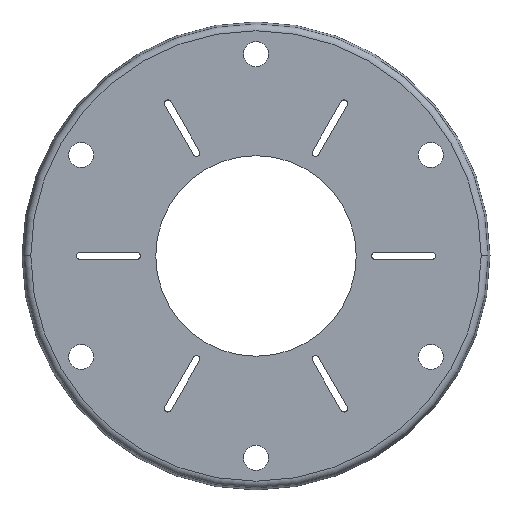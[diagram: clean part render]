
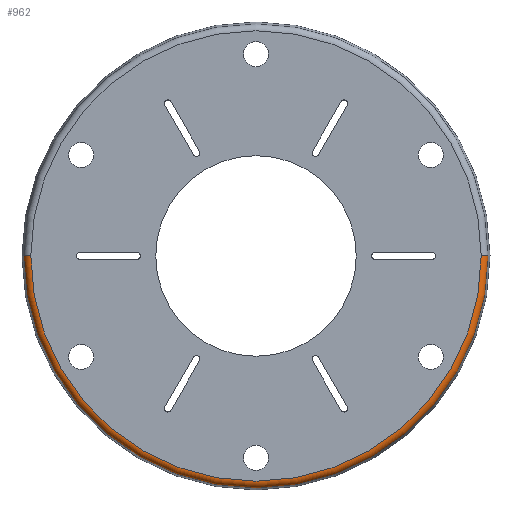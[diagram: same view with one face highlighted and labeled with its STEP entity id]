
A CAD part, top view. The second image highlights one B-rep face of the part: STEP entity #962.
In plain terms, the highlighted toroidal (fillet/blend) face has major radius 80.866 mm and minor radius 2.5 mm.
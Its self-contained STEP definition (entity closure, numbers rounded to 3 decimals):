
#38 = VERTEX_POINT ( 'NONE', #155 ) ;
#114 = CARTESIAN_POINT ( 'NONE',  ( -80.866, 0., -2.5 ) ) ;
#155 = CARTESIAN_POINT ( 'NONE',  ( -80.866, 0., 0. ) ) ;
#190 = DIRECTION ( 'NONE',  ( 1., 0., 0. ) ) ;
#332 = EDGE_CURVE ( 'NONE', #894, #38, #1348, .T. ) ;
#388 = DIRECTION ( 'NONE',  ( 0., 1., 0. ) ) ;
#394 = ORIENTED_EDGE ( 'NONE', *, *, #1041, .F. ) ;
#406 = AXIS2_PLACEMENT_3D ( 'NONE', #114, #388, #1147 ) ;
#425 = EDGE_CURVE ( 'NONE', #713, #486, #1090, .T. ) ;
#486 = VERTEX_POINT ( 'NONE', #1904 ) ;
#690 = CARTESIAN_POINT ( 'NONE',  ( 0., 0., -1.853 ) ) ;
#713 = VERTEX_POINT ( 'NONE', #1305 ) ;
#730 = CARTESIAN_POINT ( 'NONE',  ( -83.281, 0., -1.853 ) ) ;
#824 = AXIS2_PLACEMENT_3D ( 'NONE', #1066, #1214, #1682 ) ;
#877 = CIRCLE ( 'NONE', #1437, 83.281 ) ;
#894 = VERTEX_POINT ( 'NONE', #730 ) ;
#905 = EDGE_LOOP ( 'NONE', ( #1583, #1243, #1444, #394 ) ) ;
#962 = ADVANCED_FACE ( 'NONE', ( #1165 ), #1651, .T. ) ;
#1041 = EDGE_CURVE ( 'NONE', #38, #486, #1473, .T. ) ;
#1066 = CARTESIAN_POINT ( 'NONE',  ( 0., 0., -2.5 ) ) ;
#1090 = CIRCLE ( 'NONE', #1582, 2.5 ) ;
#1147 = DIRECTION ( 'NONE',  ( -1., 0., 0. ) ) ;
#1165 = FACE_OUTER_BOUND ( 'NONE', #905, .T. ) ;
#1208 = EDGE_CURVE ( 'NONE', #894, #713, #877, .T. ) ;
#1214 = DIRECTION ( 'NONE',  ( 0., 0., 1. ) ) ;
#1243 = ORIENTED_EDGE ( 'NONE', *, *, #1208, .T. ) ;
#1305 = CARTESIAN_POINT ( 'NONE',  ( 83.281, 0., -1.853 ) ) ;
#1348 = CIRCLE ( 'NONE', #406, 2.5 ) ;
#1371 = DIRECTION ( 'NONE',  ( 0., -1., 0. ) ) ;
#1437 = AXIS2_PLACEMENT_3D ( 'NONE', #690, #1861, #1596 ) ;
#1444 = ORIENTED_EDGE ( 'NONE', *, *, #425, .T. ) ;
#1473 = CIRCLE ( 'NONE', #1713, 80.866 ) ;
#1487 = CARTESIAN_POINT ( 'NONE',  ( 80.866, 0., -2.5 ) ) ;
#1512 = DIRECTION ( 'NONE',  ( 0., 0., 1. ) ) ;
#1540 = CARTESIAN_POINT ( 'NONE',  ( 0., 0., 0. ) ) ;
#1582 = AXIS2_PLACEMENT_3D ( 'NONE', #1487, #1371, #1796 ) ;
#1583 = ORIENTED_EDGE ( 'NONE', *, *, #332, .F. ) ;
#1596 = DIRECTION ( 'NONE',  ( 1., 0., 0. ) ) ;
#1651 = TOROIDAL_SURFACE ( 'NONE', #824, 80.866, 2.5 ) ;
#1682 = DIRECTION ( 'NONE',  ( 1., 0., 0. ) ) ;
#1713 = AXIS2_PLACEMENT_3D ( 'NONE', #1540, #1512, #190 ) ;
#1796 = DIRECTION ( 'NONE',  ( 0., 0., -1. ) ) ;
#1861 = DIRECTION ( 'NONE',  ( 0., 0., 1. ) ) ;
#1904 = CARTESIAN_POINT ( 'NONE',  ( 80.866, 0., 0. ) ) ;
